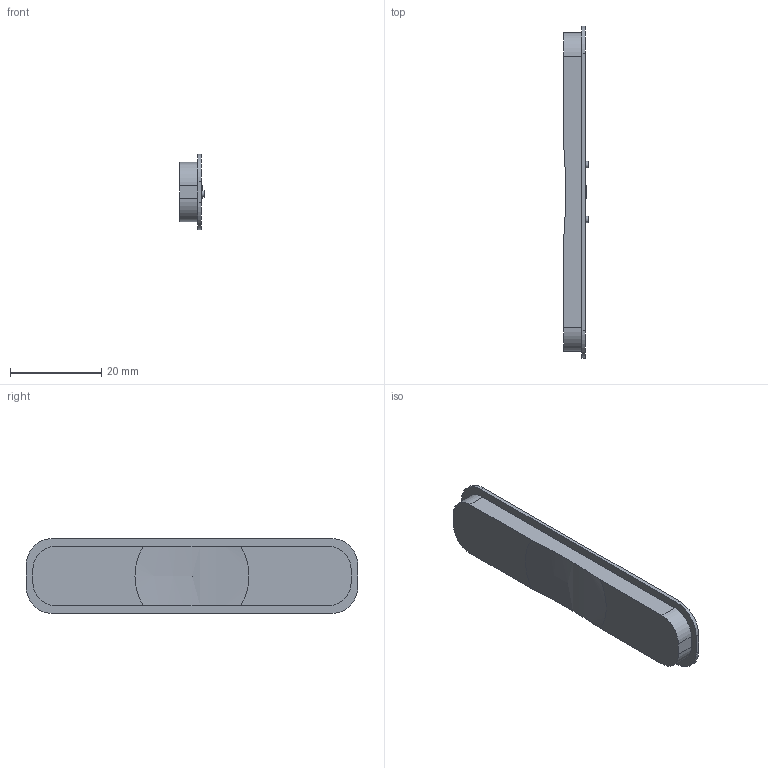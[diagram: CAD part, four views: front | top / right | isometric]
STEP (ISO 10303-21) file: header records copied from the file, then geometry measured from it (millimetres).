
FILE_DESCRIPTION(('Open CASCADE Model'),'2;1');
FILE_NAME('Open CASCADE Shape Model','2026-09-06T11:45:45',('Author'),( 'Open CASCADE'),'Open CASCADE STEP processor 7.7','Open CASCADE 7.7' ,'Unknown');
FILE_SCHEMA(('AUTOMOTIVE_DESIGN { 1 0 10303 214 1 1 1 1 }'));
Length unit declared in the file: millimetre
Products named in the file (1): Open CASCADE STEP translator 7.7 3
Bounding box: 5.45 x 72.6 x 16.5 mm (x, y, z)
Volume: 4355.2 mm3; surface area: 3091.5 mm2
Topology: 1 solids, 1 shells, 30 faces, 75 edges, 50 vertices
Faces by surface type: plane 19, cylinder 10, sphere 1
Full cylindrical faces by diameter (mm): 1.4 x2
Entity records: 2077 total; most frequent: CARTESIAN_POINT 567, DIRECTION 289, LINE 167, VECTOR 167, ORIENTED_EDGE 148, PCURVE 148, DEFINITIONAL_REPRESENTATION 148, EDGE_CURVE 74
